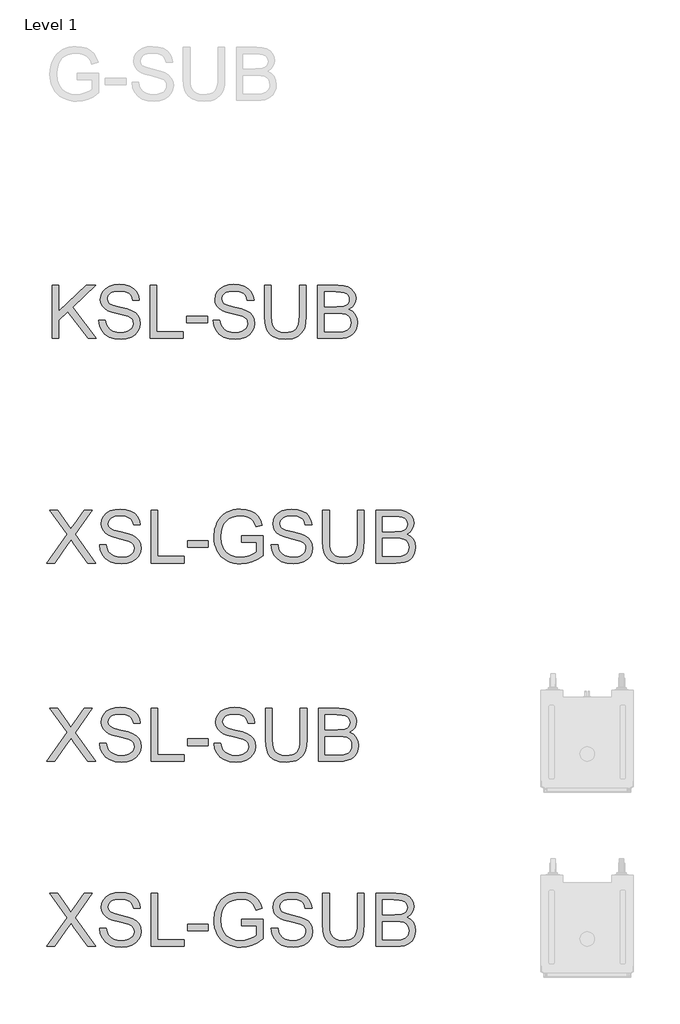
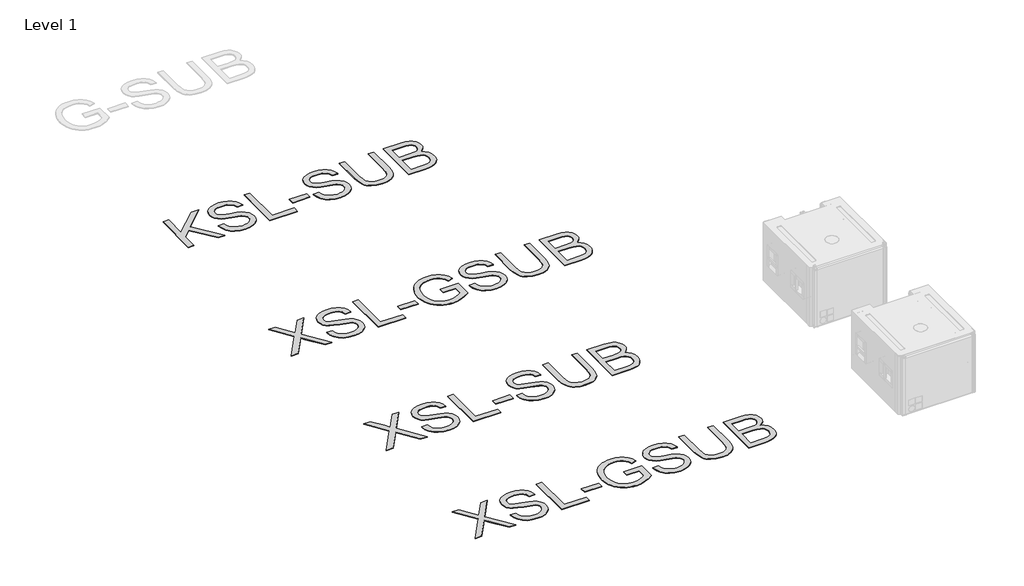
# One storey, part 44 of 52: 4 proxies.
"""IFC4 building model written with IfcOpenShell, lengths in millimetres."""

from ifc_helpers import new_model, si_unit, origin, origin_with_axes, place, context, project, spatial, polyline, outline, extrude, element, save

model = new_model("IFC4")

# Units and contexts
model_context = context("Model", 3, world=origin())
ifc_project = project(units=[si_unit("LENGTHUNIT", "METRE", prefix="MILLI")], contexts=[model_context])

# Site, building, storey
site = spatial("IfcSite", under=ifc_project)
building = spatial("IfcBuilding", under=site)
storey = spatial("IfcBuildingStorey", under=building, Name="Level 1", Elevation=0.0)

# Proxies
placement = place(None, origin())
element("IfcBuildingElementProxy", 1, Name="400mm Arial", ObjectType="400mm Arial", at=placement, inside=storey, context=model_context, shape_type="SweptSolid", body=[
    extrude(outline(polyline([(-14791.5308561, 5481.029306), (-14791.5308561, 5882.8545466), (-14741.302701, 5882.8545466), (-14741.302701, 5686.1603065), (-14535.2887837, 5882.8545466), (-14465.0478481, 5882.8545466), (-14638.0014368, 5717.6510053), (-14458.7693287, 5481.029306), (-14520.1810964, 5481.029306), (-14673.6124139, 5683.7077598), (-14741.302701, 5619.1567324), (-14741.302701, 5481.029306), (-14791.5308561, 5481.029306)])), origin_with_axes(), (0.0, 0.0, 1.0), 5.0),
    extrude(outline(polyline([(-14439.9337706, 5619.1567324), (-14389.7056155, 5619.1567324), (-14383.9421309, 5591.2835399), (-14373.5188077, 5568.8795264), (-14357.2584235, 5551.0985633), (-14333.983756, 5537.094522), (-14305.534215, 5528.0078368), (-14273.7492106, 5524.9789417), (-14245.7656535, 5527.2720728), (-14221.2647126, 5534.1514661), (-14201.4113476, 5545.0407731), (-14187.3705181, 5559.3636455), (-14179.0195968, 5575.8079707), (-14176.2359564, 5593.0616362), (-14178.3206211, 5609.8738434), (-14184.574615, 5624.4051822), (-14197.2788065, 5636.8028055), (-14218.7140641, 5647.2138659), (-14291.8490048, 5666.3927806), (-14339.8576051, 5679.0847094), (-14370.5757517, 5691.1635016), (-14395.5794647, 5708.0615479), (-14413.2991141, 5728.5403123), (-14423.8573274, 5752.1583364), (-14427.3767318, 5778.4741618), (-14423.0234615, 5807.8924587), (-14409.9636507, 5835.3241928), (-14388.5406558, 5858.5743349), (-14359.0978335, 5875.4478557), (-14323.7566365, 5885.7117634), (-14284.6385177, 5889.133066), (-14242.2585118, 5885.5523479), (-14205.1760067, 5874.8101936), (-14174.7153775, 5857.1273324), (-14152.2009994, 5832.7244934), (-14137.9517035, 5803.1222555), (-14132.2863207, 5769.8411976), (-14182.5144758, 5769.8411976), (-14191.7360511, 5799.8113175), (-14200.0992352, 5811.6693805), (-14210.9640168, 5821.4427788), (-14241.007713, 5834.5393779), (-14282.6764804, 5838.9049109), (-14325.3262663, 5834.5884288), (-14341.6295701, 5829.1928262), (-14354.5851477, 5821.6389826), (-14371.5077195, 5802.5826952), (-14377.1485767, 5779.9456898), (-14373.1509257, 5760.6441478), (-14361.1579727, 5745.1195276), (-14332.8065336, 5731.2381136), (-14279.1448132, 5717.0623941), (-14223.7663102, 5703.5979131), (-14190.2645232, 5691.8502147), (-14161.6310412, 5673.6277932), (-14141.6550489, 5651.1379405), (-14129.9196132, 5624.6259114), (-14126.0078013, 5594.3369605), (-14130.5082244, 5563.3735592), (-14144.0094936, 5534.2495679), (-14165.959786, 5509.1845413), (-14195.8072786, 5490.3980341), (-14231.7002986, 5478.6625985), (-14271.7871733, 5474.7507866), (-14320.9975215, 5478.9691668), (-14361.5013292, 5491.6243074), (-14393.7645802, 5512.7652594), (-14418.2532583, 5542.4410737), (-14433.9740822, 5578.5916111), (-14439.9337706, 5619.1567324)])), origin_with_axes(), (0.0, 0.0, 1.0), 5.0),
    extrude(outline(polyline([(-14050.6655687, 5481.029306), (-14050.6655687, 5882.8545466), (-14000.4374137, 5882.8545466), (-14000.4374137, 5531.257461), (-13799.5247934, 5531.257461), (-13799.5247934, 5481.029306), (-14050.6655687, 5481.029306)])), origin_with_axes(), (0.0, 0.0, 1.0), 5.0),
    extrude(outline(polyline([(-13774.4107158, 5600.3211743), (-13774.4107158, 5650.5493293), (-13617.4477312, 5650.5493293), (-13617.4477312, 5600.3211743), (-13774.4107158, 5600.3211743)])), origin_with_axes(), (0.0, 0.0, 1.0), 5.0),
    extrude(outline(polyline([(-13573.4980955, 5619.1567324), (-13523.2699404, 5619.1567324), (-13517.5064559, 5591.2835399), (-13507.0831327, 5568.8795264), (-13490.8227485, 5551.0985633), (-13467.5480809, 5537.094522), (-13439.09854, 5528.0078368), (-13407.3135356, 5524.9789417), (-13379.3299785, 5527.2720728), (-13354.8290376, 5534.1514661), (-13334.9756726, 5545.0407731), (-13320.9348431, 5559.3636455), (-13312.5839218, 5575.8079707), (-13309.8002814, 5593.0616362), (-13311.884946, 5609.8738434), (-13318.1389399, 5624.4051822), (-13330.8431315, 5636.8028055), (-13352.2783891, 5647.2138659), (-13425.4133297, 5666.3927806), (-13473.4219301, 5679.0847094), (-13504.1400767, 5691.1635016), (-13529.1437896, 5708.0615479), (-13546.8634391, 5728.5403123), (-13557.4216523, 5752.1583364), (-13560.9410568, 5778.4741618), (-13556.5877865, 5807.8924587), (-13543.5279756, 5835.3241928), (-13522.1049808, 5858.5743349), (-13492.6621584, 5875.4478557), (-13457.3209614, 5885.7117634), (-13418.2028426, 5889.133066), (-13375.8228368, 5885.5523479), (-13338.7403317, 5874.8101936), (-13308.2797025, 5857.1273324), (-13285.7653244, 5832.7244934), (-13271.5160284, 5803.1222555), (-13265.8506457, 5769.8411976), (-13316.0788008, 5769.8411976), (-13325.3003761, 5799.8113175), (-13333.6635601, 5811.6693805), (-13344.5283417, 5821.4427788), (-13374.572038, 5834.5393779), (-13416.2408053, 5838.9049109), (-13458.8905913, 5834.5884288), (-13475.193895, 5829.1928262), (-13488.1494726, 5821.6389826), (-13505.0720444, 5802.5826952), (-13510.7129017, 5779.9456898), (-13506.7152507, 5760.6441478), (-13494.7222976, 5745.1195276), (-13466.3708585, 5731.2381136), (-13412.7091382, 5717.0623941), (-13357.3306352, 5703.5979131), (-13323.8288481, 5691.8502147), (-13295.1953662, 5673.6277932), (-13275.2193738, 5651.1379405), (-13263.4839382, 5624.6259114), (-13259.5721263, 5594.3369605), (-13264.0725494, 5563.3735592), (-13277.5738186, 5534.2495679), (-13299.524111, 5509.1845413), (-13329.3716035, 5490.3980341), (-13365.2646235, 5478.6625985), (-13405.3514983, 5474.7507866), (-13454.5618465, 5478.9691668), (-13495.0656542, 5491.6243074), (-13527.3289051, 5512.7652594), (-13551.8175833, 5542.4410737), (-13567.5384072, 5578.5916111), (-13573.4980955, 5619.1567324)])), origin_with_axes(), (0.0, 0.0, 1.0), 5.0),
    extrude(outline(polyline([(-12920.5320795, 5882.8545466), (-12870.3039245, 5882.8545466), (-12870.3039245, 5651.0398387), (-12873.7129643, 5596.7527189), (-12883.9400838, 5554.9490615), (-12892.1254582, 5537.9958329), (-12903.045422, 5522.6980733), (-12933.0891183, 5497.068961), (-12952.2312448, 5487.3047597), (-12974.144749, 5480.3303302), (-13026.2858904, 5474.7507866), (-13077.2865977, 5479.6068289), (-13118.0601855, 5494.1749559), (-13134.6148753, 5504.9753582), (-13148.6189166, 5517.9523956), (-13160.0723093, 5533.1060681), (-13168.9750536, 5550.4363757), (-13180.4161837, 5594.0058667), (-13184.2298937, 5651.0398387), (-13184.2298937, 5882.8545466), (-13134.0017386, 5882.8545466), (-13134.0017386, 5652.8056722), (-13131.5246665, 5607.6665514), (-13124.0934502, 5576.2371663), (-13110.6289692, 5554.4708149), (-13090.0521029, 5538.3207954), (-13063.2212427, 5528.3144051), (-13030.99478, 5524.9789417), (-13003.3116598, 5526.6282793), (-12979.9082336, 5531.5762921), (-12960.7845012, 5539.8229802), (-12945.9404627, 5551.3683434), (-12934.8242951, 5567.6042022), (-12926.8841753, 5589.9223765), (-12922.1201035, 5618.3228666), (-12920.5320795, 5652.8056722), (-12920.5320795, 5882.8545466)])), origin_with_axes(), (0.0, 0.0, 1.0), 5.0),
    extrude(outline(polyline([(-12782.4046531, 5481.029306), (-12782.4046531, 5882.8545466), (-12629.0714375, 5882.8545466), (-12586.8998981, 5879.8992279), (-12553.9744596, 5871.0332718), (-12528.7377547, 5856.0359491), (-12509.6324164, 5834.6865307), (-12497.6026752, 5809.5724531), (-12493.5927614, 5783.2811532), (-12496.965013, 5759.0867807), (-12507.0817679, 5736.3394106), (-12524.0166024, 5716.4369947), (-12547.843093, 5700.7774844), (-12519.3812893, 5685.9150518), (-12498.3507019, 5663.3025718), (-12485.3644675, 5634.436098), (-12481.0357226, 5600.8116836), (-12483.9910413, 5572.7913383), (-12492.8569974, 5546.8066067), (-12506.0884865, 5524.7091615), (-12522.1404042, 5508.3506755), (-12541.7975655, 5496.5048752), (-12565.8447853, 5487.9454875), (-12595.0668784, 5482.7583513), (-12630.2486599, 5481.029306), (-12782.4046531, 5481.029306)]), holes=[polyline([(-12732.176498, 5719.6130426), (-12640.4512539, 5719.6130426), (-12586.8876354, 5723.9295247), (-12568.1379164, 5731.3730037), (-12554.6611726, 5742.5198281), (-12546.5309805, 5757.1983197), (-12543.8209165, 5775.2368002), (-12546.3470395, 5792.7479832), (-12553.9254086, 5808.0028233), (-12566.2126673, 5819.9099372), (-12582.8654589, 5827.3779417), (-12608.4209948, 5831.314279), (-12647.4164863, 5832.6263915), (-12732.176498, 5832.6263915), (-12732.176498, 5719.6130426)]), polyline([(-12732.176498, 5531.257461), (-12629.1695394, 5531.257461), (-12591.8908305, 5533.2194984), (-12560.3510808, 5544.1578563), (-12548.7750607, 5553.5878982), (-12539.4553835, 5566.4760307), (-12533.3117542, 5582.2459056), (-12531.2638777, 5600.3211743), (-12533.6673734, 5621.3149735), (-12540.8778605, 5639.3657167), (-12553.4716875, 5653.4801226), (-12572.0252028, 5662.6649097), (-12598.30424, 5667.7048931), (-12634.0746326, 5669.3848875), (-12732.176498, 5669.3848875), (-12732.176498, 5531.257461)])]), origin_with_axes(), (0.0, 0.0, 1.0), 5.0),
])
element("IfcBuildingElementProxy", 2, Name="400mm Arial", ObjectType="400mm Arial", at=placement, inside=storey, context=model_context, shape_type="SweptSolid", body=[
    extrude(outline(polyline([(-14835.4804918, 3781.029306), (-14680.5776463, 3999.9926695), (-14810.3664142, 4182.8545466), (-14750.1318689, 4182.8545466), (-14677.0459792, 4079.9456898), (-14652.422411, 4039.8220268), (-14623.5804626, 4080.6324028), (-14551.2793878, 4182.8545466), (-14490.1619256, 4182.8545466), (-14619.9506935, 3999.4040583), (-14465.0478481, 3781.029306), (-14525.2823934, 3781.029306), (-14628.4855558, 3926.6124742), (-14649.9698643, 3956.8278487), (-14673.6124139, 3923.6694182), (-14774.3630296, 3781.029306), (-14835.4804918, 3781.029306)])), origin_with_axes(), (0.0, 0.0, 1.0), 5.0),
    extrude(outline(polyline([(-14433.6552512, 3919.1567324), (-14383.4270961, 3919.1567324), (-14377.6636115, 3891.2835399), (-14367.2402883, 3868.8795264), (-14350.9799041, 3851.0985633), (-14327.7052366, 3837.094522), (-14299.2556956, 3828.0078368), (-14267.4706912, 3824.9789417), (-14239.4871341, 3827.2720728), (-14214.9861932, 3834.1514661), (-14195.1328282, 3845.0407731), (-14181.0919988, 3859.3636455), (-14172.7410775, 3875.8079707), (-14169.957437, 3893.0616362), (-14172.0421017, 3909.8738434), (-14178.2960956, 3924.4051822), (-14191.0002872, 3936.8028055), (-14212.4355447, 3947.2138659), (-14285.5704854, 3966.3927806), (-14333.5790858, 3979.0847094), (-14364.2972324, 3991.1635016), (-14389.3009453, 4008.0615479), (-14407.0205947, 4028.5403123), (-14417.578808, 4052.1583364), (-14421.0982124, 4078.4741618), (-14416.7449421, 4107.8924587), (-14403.6851313, 4135.3241928), (-14382.2621365, 4158.5743349), (-14352.8193141, 4175.4478557), (-14317.4781171, 4185.7117634), (-14278.3599983, 4189.133066), (-14235.9799924, 4185.5523479), (-14198.8974873, 4174.8101936), (-14168.4368581, 4157.1273324), (-14145.92248, 4132.7244934), (-14131.6731841, 4103.1222555), (-14126.0078013, 4069.8411976), (-14176.2359564, 4069.8411976), (-14185.4575318, 4099.8113175), (-14193.8207158, 4111.6693805), (-14204.6854974, 4121.4427788), (-14234.7291937, 4134.5393779), (-14276.397961, 4138.9049109), (-14319.0477469, 4134.5884288), (-14335.3510507, 4129.1928262), (-14348.3066283, 4121.6389826), (-14365.2292001, 4102.5826952), (-14370.8700573, 4079.9456898), (-14366.8724063, 4060.6441478), (-14354.8794533, 4045.1195276), (-14326.5280142, 4031.2381136), (-14272.8662938, 4017.0623941), (-14217.4877908, 4003.5979131), (-14183.9860038, 3991.8502147), (-14155.3525218, 3973.6277932), (-14135.3765295, 3951.1379405), (-14123.6410938, 3924.6259114), (-14119.729282, 3894.3369605), (-14124.229705, 3863.3735592), (-14137.7309743, 3834.2495679), (-14159.6812666, 3809.1845413), (-14189.5287592, 3790.3980341), (-14225.4217792, 3778.6625985), (-14265.5086539, 3774.7507866), (-14314.7190021, 3778.9691668), (-14355.2228098, 3791.6243074), (-14387.4860608, 3812.7652594), (-14411.9747389, 3842.4410737), (-14427.6955629, 3878.5916111), (-14433.6552512, 3919.1567324)])), origin_with_axes(), (0.0, 0.0, 1.0), 5.0),
    extrude(outline(polyline([(-14044.3870493, 3781.029306), (-14044.3870493, 4182.8545466), (-13994.1588943, 4182.8545466), (-13994.1588943, 3831.257461), (-13793.246274, 3831.257461), (-13793.246274, 3781.029306), (-14044.3870493, 3781.029306)])), origin_with_axes(), (0.0, 0.0, 1.0), 5.0),
    extrude(outline(polyline([(-13768.1321964, 3900.3211743), (-13768.1321964, 3950.5493293), (-13611.1692118, 3950.5493293), (-13611.1692118, 3900.3211743), (-13768.1321964, 3900.3211743)])), origin_with_axes(), (0.0, 0.0, 1.0), 5.0),
    extrude(outline(polyline([(-13360.0284365, 3937.9922906), (-13360.0284365, 3988.2204457), (-13196.7869325, 3988.2204457), (-13196.7869325, 3838.0264898), (-13236.4568743, 3810.4353401), (-13277.3776149, 3790.6432888), (-13319.4510524, 3778.7239121), (-13362.579085, 3774.7507866), (-13391.4302304, 3776.3296135), (-13418.9263439, 3781.0660942), (-13445.0674253, 3788.9602286), (-13469.8534747, 3800.0120169), (-13492.4843488, 3814.0559121), (-13512.1599042, 3830.9263672), (-13528.8801409, 3850.6233824), (-13542.6450589, 3873.1469576), (-13553.3964102, 3897.7766571), (-13561.0759468, 3923.7920456), (-13565.6836688, 3951.1931228), (-13567.2195761, 3979.979889), (-13561.1004723, 4036.5724026), (-13553.4515925, 4063.3879343), (-13542.7431607, 4089.2163161), (-13529.1652494, 4112.923245), (-13512.9079309, 4133.3744182), (-13493.9712052, 4150.5698358), (-13472.3550723, 4164.5094977), (-13448.5285818, 4175.2823088), (-13422.9607831, 4182.9771739), (-13395.6516763, 4187.5940929), (-13366.6012614, 4189.133066), (-13325.2267997, 4185.5646106), (-13288.0216673, 4174.8592445), (-13256.690384, 4157.78952), (-13232.9374699, 4135.1279891), (-13215.3649732, 4105.7832686), (-13202.5749425, 4068.6639753), (-13248.879023, 4055.6164272), (-13259.216507, 4082.0916681), (-13271.7858085, 4102.0676604), (-13288.4140747, 4117.1262968), (-13310.9284528, 4128.8494697), (-13337.7715757, 4136.3910506), (-13367.3860764, 4138.9049109), (-13402.052823, 4136.1948468), (-13431.6918491, 4128.0646548), (-13456.19279, 4115.5321414), (-13475.4452811, 4099.6151138), (-13490.2218745, 4081.1351749), (-13501.2951226, 4060.9139279), (-13513.0673464, 4022.9975569), (-13516.9914211, 3982.0400281), (-13512.2702688, 3934.0069023), (-13498.106812, 3894.4841133), (-13474.9302463, 3863.753704), (-13443.1697674, 3842.0977172), (-13406.0014231, 3829.2586355), (-13366.6012614, 3824.9789417), (-13331.8118874, 3828.2040405), (-13297.8809047, 3837.879337), (-13268.4135569, 3851.2089279), (-13247.0150875, 3865.3969102), (-13247.0150875, 3937.9922906), (-13360.0284365, 3937.9922906)])), origin_with_axes(), (0.0, 0.0, 1.0), 5.0),
    extrude(outline(polyline([(-13134.0017386, 3919.1567324), (-13083.7735835, 3919.1567324), (-13078.010099, 3891.2835399), (-13067.5867758, 3868.8795264), (-13051.3263916, 3851.0985633), (-13028.051724, 3837.094522), (-12999.602183, 3828.0078368), (-12967.8171787, 3824.9789417), (-12939.8336216, 3827.2720728), (-12915.3326807, 3834.1514661), (-12895.4793157, 3845.0407731), (-12881.4384862, 3859.3636455), (-12873.0875649, 3875.8079707), (-12870.3039245, 3893.0616362), (-12872.3885891, 3909.8738434), (-12878.642583, 3924.4051822), (-12891.3467746, 3936.8028055), (-12912.7820322, 3947.2138659), (-12985.9169728, 3966.3927806), (-13033.9255732, 3979.0847094), (-13064.6437198, 3991.1635016), (-13089.6474327, 4008.0615479), (-13107.3670822, 4028.5403123), (-13117.9252954, 4052.1583364), (-13121.4446998, 4078.4741618), (-13117.0914296, 4107.8924587), (-13104.0316187, 4135.3241928), (-13082.6086239, 4158.5743349), (-13053.1658015, 4175.4478557), (-13017.8246045, 4185.7117634), (-12978.7064857, 4189.133066), (-12936.3264799, 4185.5523479), (-12899.2439748, 4174.8101936), (-12868.7833456, 4157.1273324), (-12846.2689675, 4132.7244934), (-12832.0196715, 4103.1222555), (-12826.3542888, 4069.8411976), (-12876.5824439, 4069.8411976), (-12885.8040192, 4099.8113175), (-12894.1672032, 4111.6693805), (-12905.0319848, 4121.4427788), (-12935.0756811, 4134.5393779), (-12976.7444484, 4138.9049109), (-13019.3942344, 4134.5884288), (-13035.6975381, 4129.1928262), (-13048.6531157, 4121.6389826), (-13065.5756875, 4102.5826952), (-13071.2165448, 4079.9456898), (-13067.2188938, 4060.6441478), (-13055.2259407, 4045.1195276), (-13026.8745016, 4031.2381136), (-12973.2127813, 4017.0623941), (-12917.8342783, 4003.5979131), (-12884.3324912, 3991.8502147), (-12855.6990093, 3973.6277932), (-12835.7230169, 3951.1379405), (-12823.9875813, 3924.6259114), (-12820.0757694, 3894.3369605), (-12824.5761925, 3863.3735592), (-12838.0774617, 3834.2495679), (-12860.0277541, 3809.1845413), (-12889.8752466, 3790.3980341), (-12925.7682666, 3778.6625985), (-12965.8551414, 3774.7507866), (-13015.0654896, 3778.9691668), (-13055.5692972, 3791.6243074), (-13087.8325482, 3812.7652594), (-13112.3212264, 3842.4410737), (-13128.0420503, 3878.5916111), (-13134.0017386, 3919.1567324)])), origin_with_axes(), (0.0, 0.0, 1.0), 5.0),
    extrude(outline(polyline([(-12481.0357226, 4182.8545466), (-12430.8075676, 4182.8545466), (-12430.8075676, 3951.0398387), (-12434.2166074, 3896.7527189), (-12444.4437269, 3854.9490615), (-12452.6291013, 3837.9958329), (-12463.5490651, 3822.6980733), (-12493.5927614, 3797.068961), (-12512.7348879, 3787.3047597), (-12534.6483921, 3780.3303302), (-12586.7895335, 3774.7507866), (-12637.7902408, 3779.6068289), (-12678.5638286, 3794.1749559), (-12695.1185184, 3804.9753582), (-12709.1225597, 3817.9523956), (-12720.5759524, 3833.1060681), (-12729.4786967, 3850.4363757), (-12740.9198268, 3894.0058667), (-12744.7335368, 3951.0398387), (-12744.7335368, 4182.8545466), (-12694.5053817, 4182.8545466), (-12694.5053817, 3952.8056722), (-12692.0283096, 3907.6665514), (-12684.5970933, 3876.2371663), (-12671.1326123, 3854.4708149), (-12650.555746, 3838.3207954), (-12623.7248858, 3828.3144051), (-12591.4984231, 3824.9789417), (-12563.8153029, 3826.6282793), (-12540.4118767, 3831.5762921), (-12521.2881443, 3839.8229802), (-12506.4441058, 3851.3683434), (-12495.3279382, 3867.6042022), (-12487.3878184, 3889.9223765), (-12482.6237466, 3918.3228666), (-12481.0357226, 3952.8056722), (-12481.0357226, 4182.8545466)])), origin_with_axes(), (0.0, 0.0, 1.0), 5.0),
    extrude(outline(polyline([(-12342.9082962, 3781.029306), (-12342.9082962, 4182.8545466), (-12189.5750806, 4182.8545466), (-12147.4035412, 4179.8992279), (-12114.4781027, 4171.0332718), (-12089.2413978, 4156.0359491), (-12070.1360595, 4134.6865307), (-12058.1063183, 4109.5724531), (-12054.0964045, 4083.2811532), (-12057.4686561, 4059.0867807), (-12067.585411, 4036.3394106), (-12084.5202455, 4016.4369947), (-12108.3467361, 4000.7774844), (-12079.8849324, 3985.9150518), (-12058.854345, 3963.3025718), (-12045.8681106, 3934.436098), (-12041.5393657, 3900.8116836), (-12044.4946844, 3872.7913383), (-12053.3606405, 3846.8066067), (-12066.5921296, 3824.7091615), (-12082.6440473, 3808.3506755), (-12102.3012086, 3796.5048752), (-12126.3484284, 3787.9454875), (-12155.5705215, 3782.7583513), (-12190.752303, 3781.029306), (-12342.9082962, 3781.029306)]), holes=[polyline([(-12292.6801411, 4019.6130426), (-12200.954897, 4019.6130426), (-12147.3912785, 4023.9295247), (-12128.6415595, 4031.3730037), (-12115.1648157, 4042.5198281), (-12107.0346236, 4057.1983197), (-12104.3245596, 4075.2368002), (-12106.8506826, 4092.7479832), (-12114.4290517, 4108.0028233), (-12126.7163104, 4119.9099372), (-12143.369102, 4127.3779417), (-12168.9246379, 4131.314279), (-12207.9201294, 4132.6263915), (-12292.6801411, 4132.6263915), (-12292.6801411, 4019.6130426)]), polyline([(-12292.6801411, 3831.257461), (-12189.6731825, 3831.257461), (-12152.3944736, 3833.2194984), (-12120.8547239, 3844.1578563), (-12109.2787038, 3853.5878982), (-12099.9590266, 3866.4760307), (-12093.8153973, 3882.2459056), (-12091.7675208, 3900.3211743), (-12094.1710165, 3921.3149735), (-12101.3815036, 3939.3657167), (-12113.9753306, 3953.4801226), (-12132.5288459, 3962.6649097), (-12158.8078831, 3967.7048931), (-12194.5782757, 3969.3848875), (-12292.6801411, 3969.3848875), (-12292.6801411, 3831.257461)])]), origin_with_axes(), (0.0, 0.0, 1.0), 5.0),
])
element("IfcBuildingElementProxy", 3, Name="400mm Arial", ObjectType="400mm Arial", at=placement, inside=storey, context=model_context, shape_type="SweptSolid", body=[
    extrude(outline(polyline([(-14835.4804918, 2281.029306), (-14680.5776463, 2499.9926695), (-14810.3664142, 2682.8545466), (-14750.1318689, 2682.8545466), (-14677.0459792, 2579.9456898), (-14652.422411, 2539.8220268), (-14623.5804626, 2580.6324028), (-14551.2793878, 2682.8545466), (-14490.1619256, 2682.8545466), (-14619.9506935, 2499.4040583), (-14465.0478481, 2281.029306), (-14525.2823934, 2281.029306), (-14628.4855558, 2426.6124742), (-14649.9698643, 2456.8278487), (-14673.6124139, 2423.6694182), (-14774.3630296, 2281.029306), (-14835.4804918, 2281.029306)])), origin_with_axes(), (0.0, 0.0, 1.0), 5.0),
    extrude(outline(polyline([(-14433.6552512, 2419.1567324), (-14383.4270961, 2419.1567324), (-14377.6636115, 2391.2835399), (-14367.2402883, 2368.8795264), (-14350.9799041, 2351.0985633), (-14327.7052366, 2337.094522), (-14299.2556956, 2328.0078368), (-14267.4706912, 2324.9789417), (-14239.4871341, 2327.2720728), (-14214.9861932, 2334.1514661), (-14195.1328282, 2345.0407731), (-14181.0919988, 2359.3636455), (-14172.7410775, 2375.8079707), (-14169.957437, 2393.0616362), (-14172.0421017, 2409.8738434), (-14178.2960956, 2424.4051822), (-14191.0002872, 2436.8028055), (-14212.4355447, 2447.2138659), (-14285.5704854, 2466.3927806), (-14333.5790858, 2479.0847094), (-14364.2972324, 2491.1635016), (-14389.3009453, 2508.0615479), (-14407.0205947, 2528.5403123), (-14417.578808, 2552.1583364), (-14421.0982124, 2578.4741618), (-14416.7449421, 2607.8924587), (-14403.6851313, 2635.3241928), (-14382.2621365, 2658.5743349), (-14352.8193141, 2675.4478557), (-14317.4781171, 2685.7117634), (-14278.3599983, 2689.133066), (-14235.9799924, 2685.5523479), (-14198.8974873, 2674.8101936), (-14168.4368581, 2657.1273324), (-14145.92248, 2632.7244934), (-14131.6731841, 2603.1222555), (-14126.0078013, 2569.8411976), (-14176.2359564, 2569.8411976), (-14185.4575318, 2599.8113175), (-14193.8207158, 2611.6693805), (-14204.6854974, 2621.4427788), (-14234.7291937, 2634.5393779), (-14276.397961, 2638.9049109), (-14319.0477469, 2634.5884288), (-14335.3510507, 2629.1928262), (-14348.3066283, 2621.6389826), (-14365.2292001, 2602.5826952), (-14370.8700573, 2579.9456898), (-14366.8724063, 2560.6441478), (-14354.8794533, 2545.1195276), (-14326.5280142, 2531.2381136), (-14272.8662938, 2517.0623941), (-14217.4877908, 2503.5979131), (-14183.9860038, 2491.8502147), (-14155.3525218, 2473.6277932), (-14135.3765295, 2451.1379405), (-14123.6410938, 2424.6259114), (-14119.729282, 2394.3369605), (-14124.229705, 2363.3735592), (-14137.7309743, 2334.2495679), (-14159.6812666, 2309.1845413), (-14189.5287592, 2290.3980341), (-14225.4217792, 2278.6625985), (-14265.5086539, 2274.7507866), (-14314.7190021, 2278.9691668), (-14355.2228098, 2291.6243074), (-14387.4860608, 2312.7652594), (-14411.9747389, 2342.4410737), (-14427.6955629, 2378.5916111), (-14433.6552512, 2419.1567324)])), origin_with_axes(), (0.0, 0.0, 1.0), 5.0),
    extrude(outline(polyline([(-14044.3870493, 2281.029306), (-14044.3870493, 2682.8545466), (-13994.1588943, 2682.8545466), (-13994.1588943, 2331.257461), (-13793.246274, 2331.257461), (-13793.246274, 2281.029306), (-14044.3870493, 2281.029306)])), origin_with_axes(), (0.0, 0.0, 1.0), 5.0),
    extrude(outline(polyline([(-13768.1321964, 2400.3211743), (-13768.1321964, 2450.5493293), (-13611.1692118, 2450.5493293), (-13611.1692118, 2400.3211743), (-13768.1321964, 2400.3211743)])), origin_with_axes(), (0.0, 0.0, 1.0), 5.0),
    extrude(outline(polyline([(-13567.2195761, 2419.1567324), (-13516.9914211, 2419.1567324), (-13511.2279365, 2391.2835399), (-13500.8046133, 2368.8795264), (-13484.5442291, 2351.0985633), (-13461.2695615, 2337.094522), (-13432.8200206, 2328.0078368), (-13401.0350162, 2324.9789417), (-13373.0514591, 2327.2720728), (-13348.5505182, 2334.1514661), (-13328.6971532, 2345.0407731), (-13314.6563237, 2359.3636455), (-13306.3054024, 2375.8079707), (-13303.521762, 2393.0616362), (-13305.6064266, 2409.8738434), (-13311.8604206, 2424.4051822), (-13324.5646121, 2436.8028055), (-13345.9998697, 2447.2138659), (-13419.1348103, 2466.3927806), (-13467.1434107, 2479.0847094), (-13497.8615573, 2491.1635016), (-13522.8652703, 2508.0615479), (-13540.5849197, 2528.5403123), (-13551.1431329, 2552.1583364), (-13554.6625374, 2578.4741618), (-13550.3092671, 2607.8924587), (-13537.2494563, 2635.3241928), (-13515.8264614, 2658.5743349), (-13486.3836391, 2675.4478557), (-13451.0424421, 2685.7117634), (-13411.9243232, 2689.133066), (-13369.5443174, 2685.5523479), (-13332.4618123, 2674.8101936), (-13302.0011831, 2657.1273324), (-13279.486805, 2632.7244934), (-13265.237509, 2603.1222555), (-13259.5721263, 2569.8411976), (-13309.8002814, 2569.8411976), (-13319.0218567, 2599.8113175), (-13327.3850407, 2611.6693805), (-13338.2498223, 2621.4427788), (-13368.2935186, 2634.5393779), (-13409.9622859, 2638.9049109), (-13452.6120719, 2634.5884288), (-13468.9153757, 2629.1928262), (-13481.8709533, 2621.6389826), (-13498.793525, 2602.5826952), (-13504.4343823, 2579.9456898), (-13500.4367313, 2560.6441478), (-13488.4437782, 2545.1195276), (-13460.0923391, 2531.2381136), (-13406.4306188, 2517.0623941), (-13351.0521158, 2503.5979131), (-13317.5503287, 2491.8502147), (-13288.9168468, 2473.6277932), (-13268.9408544, 2451.1379405), (-13257.2054188, 2424.6259114), (-13253.2936069, 2394.3369605), (-13257.79403, 2363.3735592), (-13271.2952992, 2334.2495679), (-13293.2455916, 2309.1845413), (-13323.0930841, 2290.3980341), (-13358.9861041, 2278.6625985), (-13399.0729789, 2274.7507866), (-13448.2833271, 2278.9691668), (-13488.7871348, 2291.6243074), (-13521.0503857, 2312.7652594), (-13545.5390639, 2342.4410737), (-13561.2598878, 2378.5916111), (-13567.2195761, 2419.1567324)])), origin_with_axes(), (0.0, 0.0, 1.0), 5.0),
    extrude(outline(polyline([(-12914.2535602, 2682.8545466), (-12864.0254051, 2682.8545466), (-12864.0254051, 2451.0398387), (-12867.4344449, 2396.7527189), (-12877.6615644, 2354.9490615), (-12885.8469388, 2337.9958329), (-12896.7669027, 2322.6980733), (-12926.8105989, 2297.068961), (-12945.9527254, 2287.3047597), (-12967.8662296, 2280.3303302), (-13020.007371, 2274.7507866), (-13071.0080783, 2279.6068289), (-13111.7816661, 2294.1749559), (-13128.3363559, 2304.9753582), (-13142.3403972, 2317.9523956), (-13153.79379, 2333.1060681), (-13162.6965342, 2350.4363757), (-13174.1376643, 2394.0058667), (-13177.9513743, 2451.0398387), (-13177.9513743, 2682.8545466), (-13127.7232192, 2682.8545466), (-13127.7232192, 2452.8056722), (-13125.2461471, 2407.6665514), (-13117.8149308, 2376.2371663), (-13104.3504498, 2354.4708149), (-13083.7735835, 2338.3207954), (-13056.9427234, 2328.3144051), (-13024.7162606, 2324.9789417), (-12997.0331404, 2326.6282793), (-12973.6297142, 2331.5762921), (-12954.5059818, 2339.8229802), (-12939.6619433, 2351.3683434), (-12928.5457757, 2367.6042022), (-12920.6056559, 2389.9223765), (-12915.8415841, 2418.3228666), (-12914.2535602, 2452.8056722), (-12914.2535602, 2682.8545466)])), origin_with_axes(), (0.0, 0.0, 1.0), 5.0),
    extrude(outline(polyline([(-12776.1261337, 2281.029306), (-12776.1261337, 2682.8545466), (-12622.7929181, 2682.8545466), (-12580.6213787, 2679.8992279), (-12547.6959402, 2671.0332718), (-12522.4592353, 2656.0359491), (-12503.353897, 2634.6865307), (-12491.3241558, 2609.5724531), (-12487.314242, 2583.2811532), (-12490.6864937, 2559.0867807), (-12500.8032485, 2536.3394106), (-12517.738083, 2516.4369947), (-12541.5645736, 2500.7774844), (-12513.1027699, 2485.9150518), (-12492.0721825, 2463.3025718), (-12479.0859481, 2434.436098), (-12474.7572033, 2400.8116836), (-12477.712522, 2372.7913383), (-12486.578478, 2346.8066067), (-12499.8099671, 2324.7091615), (-12515.8618849, 2308.3506755), (-12535.5190461, 2296.5048752), (-12559.5662659, 2287.9454875), (-12588.788359, 2282.7583513), (-12623.9701405, 2281.029306), (-12776.1261337, 2281.029306)]), holes=[polyline([(-12725.8979786, 2519.6130426), (-12634.1727345, 2519.6130426), (-12580.609116, 2523.9295247), (-12561.859397, 2531.3730037), (-12548.3826532, 2542.5198281), (-12540.2524611, 2557.1983197), (-12537.5423971, 2575.2368002), (-12540.0685201, 2592.7479832), (-12547.6468892, 2608.0028233), (-12559.9341479, 2619.9099372), (-12576.5869395, 2627.3779417), (-12602.1424755, 2631.314279), (-12641.1379669, 2632.6263915), (-12725.8979786, 2632.6263915), (-12725.8979786, 2519.6130426)]), polyline([(-12725.8979786, 2331.257461), (-12622.89102, 2331.257461), (-12585.6123111, 2333.2194984), (-12554.0725614, 2344.1578563), (-12542.4965413, 2353.5878982), (-12533.1768641, 2366.4760307), (-12527.0332348, 2382.2459056), (-12524.9853583, 2400.3211743), (-12527.388854, 2421.3149735), (-12534.5993411, 2439.3657167), (-12547.1931681, 2453.4801226), (-12565.7466834, 2462.6649097), (-12592.0257206, 2467.7048931), (-12627.7961133, 2469.3848875), (-12725.8979786, 2469.3848875), (-12725.8979786, 2331.257461)])]), origin_with_axes(), (0.0, 0.0, 1.0), 5.0),
])
element("IfcBuildingElementProxy", 4, Name="400mm Arial", ObjectType="400mm Arial", at=placement, inside=storey, context=model_context, shape_type="SweptSolid", body=[
    extrude(outline(polyline([(-14835.4804918, 881.029306), (-14680.5776463, 1099.9926695), (-14810.3664142, 1282.8545466), (-14750.1318689, 1282.8545466), (-14677.0459792, 1179.9456898), (-14652.422411, 1139.8220268), (-14623.5804626, 1180.6324028), (-14551.2793878, 1282.8545466), (-14490.1619256, 1282.8545466), (-14619.9506935, 1099.4040583), (-14465.0478481, 881.029306), (-14525.2823934, 881.029306), (-14628.4855558, 1026.6124742), (-14649.9698643, 1056.8278487), (-14673.6124139, 1023.6694182), (-14774.3630296, 881.029306), (-14835.4804918, 881.029306)])), origin_with_axes(), (0.0, 0.0, 1.0), 5.0),
    extrude(outline(polyline([(-14433.6552512, 1019.1567324), (-14383.4270961, 1019.1567324), (-14377.6636115, 991.2835399), (-14367.2402883, 968.8795264), (-14350.9799041, 951.0985633), (-14327.7052366, 937.094522), (-14299.2556956, 928.0078368), (-14267.4706912, 924.9789417), (-14239.4871341, 927.2720728), (-14214.9861932, 934.1514661), (-14195.1328282, 945.0407731), (-14181.0919988, 959.3636455), (-14172.7410775, 975.8079707), (-14169.957437, 993.0616362), (-14172.0421017, 1009.8738434), (-14178.2960956, 1024.4051822), (-14191.0002872, 1036.8028055), (-14212.4355447, 1047.2138659), (-14285.5704854, 1066.3927806), (-14333.5790858, 1079.0847094), (-14364.2972324, 1091.1635016), (-14389.3009453, 1108.0615479), (-14407.0205947, 1128.5403123), (-14417.578808, 1152.1583364), (-14421.0982124, 1178.4741618), (-14416.7449421, 1207.8924587), (-14403.6851313, 1235.3241928), (-14382.2621365, 1258.5743349), (-14352.8193141, 1275.4478557), (-14317.4781171, 1285.7117634), (-14278.3599983, 1289.133066), (-14235.9799924, 1285.5523479), (-14198.8974873, 1274.8101936), (-14168.4368581, 1257.1273324), (-14145.92248, 1232.7244934), (-14131.6731841, 1203.1222555), (-14126.0078013, 1169.8411976), (-14176.2359564, 1169.8411976), (-14185.4575318, 1199.8113175), (-14193.8207158, 1211.6693805), (-14204.6854974, 1221.4427788), (-14234.7291937, 1234.5393779), (-14276.397961, 1238.9049109), (-14319.0477469, 1234.5884288), (-14335.3510507, 1229.1928262), (-14348.3066283, 1221.6389826), (-14365.2292001, 1202.5826952), (-14370.8700573, 1179.9456898), (-14366.8724063, 1160.6441478), (-14354.8794533, 1145.1195276), (-14326.5280142, 1131.2381136), (-14272.8662938, 1117.0623941), (-14217.4877908, 1103.5979131), (-14183.9860038, 1091.8502147), (-14155.3525218, 1073.6277932), (-14135.3765295, 1051.1379405), (-14123.6410938, 1024.6259114), (-14119.729282, 994.3369605), (-14124.229705, 963.3735592), (-14137.7309743, 934.2495679), (-14159.6812666, 909.1845413), (-14189.5287592, 890.3980341), (-14225.4217792, 878.6625985), (-14265.5086539, 874.7507866), (-14314.7190021, 878.9691668), (-14355.2228098, 891.6243074), (-14387.4860608, 912.7652594), (-14411.9747389, 942.4410737), (-14427.6955629, 978.5916111), (-14433.6552512, 1019.1567324)])), origin_with_axes(), (0.0, 0.0, 1.0), 5.0),
    extrude(outline(polyline([(-14044.3870493, 881.029306), (-14044.3870493, 1282.8545466), (-13994.1588943, 1282.8545466), (-13994.1588943, 931.257461), (-13793.246274, 931.257461), (-13793.246274, 881.029306), (-14044.3870493, 881.029306)])), origin_with_axes(), (0.0, 0.0, 1.0), 5.0),
    extrude(outline(polyline([(-13768.1321964, 1000.3211743), (-13768.1321964, 1050.5493293), (-13611.1692118, 1050.5493293), (-13611.1692118, 1000.3211743), (-13768.1321964, 1000.3211743)])), origin_with_axes(), (0.0, 0.0, 1.0), 5.0),
    extrude(outline(polyline([(-13360.0284365, 1037.9922906), (-13360.0284365, 1088.2204457), (-13196.7869325, 1088.2204457), (-13196.7869325, 938.0264898), (-13236.4568743, 910.4353401), (-13277.3776149, 890.6432888), (-13319.4510524, 878.7239121), (-13362.579085, 874.7507866), (-13391.4302304, 876.3296135), (-13418.9263439, 881.0660942), (-13445.0674253, 888.9602286), (-13469.8534747, 900.0120169), (-13492.4843488, 914.0559121), (-13512.1599042, 930.9263672), (-13528.8801409, 950.6233824), (-13542.6450589, 973.1469576), (-13553.3964102, 997.7766571), (-13561.0759468, 1023.7920456), (-13565.6836688, 1051.1931228), (-13567.2195761, 1079.979889), (-13561.1004723, 1136.5724026), (-13553.4515925, 1163.3879343), (-13542.7431607, 1189.2163161), (-13529.1652494, 1212.923245), (-13512.9079309, 1233.3744182), (-13493.9712052, 1250.5698358), (-13472.3550723, 1264.5094977), (-13448.5285818, 1275.2823088), (-13422.9607831, 1282.9771739), (-13395.6516763, 1287.5940929), (-13366.6012614, 1289.133066), (-13325.2267997, 1285.5646106), (-13288.0216673, 1274.8592445), (-13256.690384, 1257.78952), (-13232.9374699, 1235.1279891), (-13215.3649732, 1205.7832686), (-13202.5749425, 1168.6639753), (-13248.879023, 1155.6164272), (-13259.216507, 1182.0916681), (-13271.7858085, 1202.0676604), (-13288.4140747, 1217.1262968), (-13310.9284528, 1228.8494697), (-13337.7715757, 1236.3910506), (-13367.3860764, 1238.9049109), (-13402.052823, 1236.1948468), (-13431.6918491, 1228.0646548), (-13456.19279, 1215.5321414), (-13475.4452811, 1199.6151138), (-13490.2218745, 1181.1351749), (-13501.2951226, 1160.9139279), (-13513.0673464, 1122.9975569), (-13516.9914211, 1082.0400281), (-13512.2702688, 1034.0069023), (-13498.106812, 994.4841133), (-13474.9302463, 963.753704), (-13443.1697674, 942.0977172), (-13406.0014231, 929.2586355), (-13366.6012614, 924.9789417), (-13331.8118874, 928.2040405), (-13297.8809047, 937.879337), (-13268.4135569, 951.2089279), (-13247.0150875, 965.3969102), (-13247.0150875, 1037.9922906), (-13360.0284365, 1037.9922906)])), origin_with_axes(), (0.0, 0.0, 1.0), 5.0),
    extrude(outline(polyline([(-13134.0017386, 1019.1567324), (-13083.7735835, 1019.1567324), (-13078.010099, 991.2835399), (-13067.5867758, 968.8795264), (-13051.3263916, 951.0985633), (-13028.051724, 937.094522), (-12999.602183, 928.0078368), (-12967.8171787, 924.9789417), (-12939.8336216, 927.2720728), (-12915.3326807, 934.1514661), (-12895.4793157, 945.0407731), (-12881.4384862, 959.3636455), (-12873.0875649, 975.8079707), (-12870.3039245, 993.0616362), (-12872.3885891, 1009.8738434), (-12878.642583, 1024.4051822), (-12891.3467746, 1036.8028055), (-12912.7820322, 1047.2138659), (-12985.9169728, 1066.3927806), (-13033.9255732, 1079.0847094), (-13064.6437198, 1091.1635016), (-13089.6474327, 1108.0615479), (-13107.3670822, 1128.5403123), (-13117.9252954, 1152.1583364), (-13121.4446998, 1178.4741618), (-13117.0914296, 1207.8924587), (-13104.0316187, 1235.3241928), (-13082.6086239, 1258.5743349), (-13053.1658015, 1275.4478557), (-13017.8246045, 1285.7117634), (-12978.7064857, 1289.133066), (-12936.3264799, 1285.5523479), (-12899.2439748, 1274.8101936), (-12868.7833456, 1257.1273324), (-12846.2689675, 1232.7244934), (-12832.0196715, 1203.1222555), (-12826.3542888, 1169.8411976), (-12876.5824439, 1169.8411976), (-12885.8040192, 1199.8113175), (-12894.1672032, 1211.6693805), (-12905.0319848, 1221.4427788), (-12935.0756811, 1234.5393779), (-12976.7444484, 1238.9049109), (-13019.3942344, 1234.5884288), (-13035.6975381, 1229.1928262), (-13048.6531157, 1221.6389826), (-13065.5756875, 1202.5826952), (-13071.2165448, 1179.9456898), (-13067.2188938, 1160.6441478), (-13055.2259407, 1145.1195276), (-13026.8745016, 1131.2381136), (-12973.2127813, 1117.0623941), (-12917.8342783, 1103.5979131), (-12884.3324912, 1091.8502147), (-12855.6990093, 1073.6277932), (-12835.7230169, 1051.1379405), (-12823.9875813, 1024.6259114), (-12820.0757694, 994.3369605), (-12824.5761925, 963.3735592), (-12838.0774617, 934.2495679), (-12860.0277541, 909.1845413), (-12889.8752466, 890.3980341), (-12925.7682666, 878.6625985), (-12965.8551414, 874.7507866), (-13015.0654896, 878.9691668), (-13055.5692972, 891.6243074), (-13087.8325482, 912.7652594), (-13112.3212264, 942.4410737), (-13128.0420503, 978.5916111), (-13134.0017386, 1019.1567324)])), origin_with_axes(), (0.0, 0.0, 1.0), 5.0),
    extrude(outline(polyline([(-12481.0357226, 1282.8545466), (-12430.8075676, 1282.8545466), (-12430.8075676, 1051.0398387), (-12434.2166074, 996.7527189), (-12444.4437269, 954.9490615), (-12452.6291013, 937.9958329), (-12463.5490651, 922.6980733), (-12493.5927614, 897.068961), (-12512.7348879, 887.3047597), (-12534.6483921, 880.3303302), (-12586.7895335, 874.7507866), (-12637.7902408, 879.6068289), (-12678.5638286, 894.1749559), (-12695.1185184, 904.9753582), (-12709.1225597, 917.9523956), (-12720.5759524, 933.1060681), (-12729.4786967, 950.4363757), (-12740.9198268, 994.0058667), (-12744.7335368, 1051.0398387), (-12744.7335368, 1282.8545466), (-12694.5053817, 1282.8545466), (-12694.5053817, 1052.8056722), (-12692.0283096, 1007.6665514), (-12684.5970933, 976.2371663), (-12671.1326123, 954.4708149), (-12650.555746, 938.3207954), (-12623.7248858, 928.3144051), (-12591.4984231, 924.9789417), (-12563.8153029, 926.6282793), (-12540.4118767, 931.5762921), (-12521.2881443, 939.8229802), (-12506.4441058, 951.3683434), (-12495.3279382, 967.6042022), (-12487.3878184, 989.9223765), (-12482.6237466, 1018.3228666), (-12481.0357226, 1052.8056722), (-12481.0357226, 1282.8545466)])), origin_with_axes(), (0.0, 0.0, 1.0), 5.0),
    extrude(outline(polyline([(-12342.9082962, 881.029306), (-12342.9082962, 1282.8545466), (-12189.5750806, 1282.8545466), (-12147.4035412, 1279.8992279), (-12114.4781027, 1271.0332718), (-12089.2413978, 1256.0359491), (-12070.1360595, 1234.6865307), (-12058.1063183, 1209.5724531), (-12054.0964045, 1183.2811532), (-12057.4686561, 1159.0867807), (-12067.585411, 1136.3394106), (-12084.5202455, 1116.4369947), (-12108.3467361, 1100.7774844), (-12079.8849324, 1085.9150518), (-12058.854345, 1063.3025718), (-12045.8681106, 1034.436098), (-12041.5393657, 1000.8116836), (-12044.4946844, 972.7913383), (-12053.3606405, 946.8066067), (-12066.5921296, 924.7091615), (-12082.6440473, 908.3506755), (-12102.3012086, 896.5048752), (-12126.3484284, 887.9454875), (-12155.5705215, 882.7583513), (-12190.752303, 881.029306), (-12342.9082962, 881.029306)]), holes=[polyline([(-12292.6801411, 1119.6130426), (-12200.954897, 1119.6130426), (-12147.3912785, 1123.9295247), (-12128.6415595, 1131.3730037), (-12115.1648157, 1142.5198281), (-12107.0346236, 1157.1983197), (-12104.3245596, 1175.2368002), (-12106.8506826, 1192.7479832), (-12114.4290517, 1208.0028233), (-12126.7163104, 1219.9099372), (-12143.369102, 1227.3779417), (-12168.9246379, 1231.314279), (-12207.9201294, 1232.6263915), (-12292.6801411, 1232.6263915), (-12292.6801411, 1119.6130426)]), polyline([(-12292.6801411, 931.257461), (-12189.6731825, 931.257461), (-12152.3944736, 933.2194984), (-12120.8547239, 944.1578563), (-12109.2787038, 953.5878982), (-12099.9590266, 966.4760307), (-12093.8153973, 982.2459056), (-12091.7675208, 1000.3211743), (-12094.1710165, 1021.3149735), (-12101.3815036, 1039.3657167), (-12113.9753306, 1053.4801226), (-12132.5288459, 1062.6649097), (-12158.8078831, 1067.7048931), (-12194.5782757, 1069.3848875), (-12292.6801411, 1069.3848875), (-12292.6801411, 931.257461)])]), origin_with_axes(), (0.0, 0.0, 1.0), 5.0),
])

save(model, "model.ifc")
